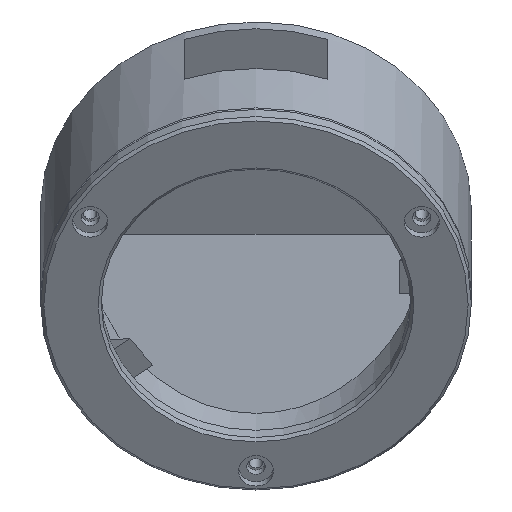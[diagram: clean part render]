
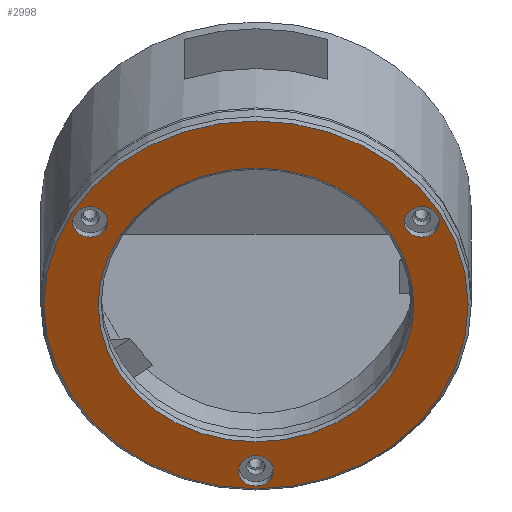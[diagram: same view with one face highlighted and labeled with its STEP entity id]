
A CAD part, top view. The second image highlights one B-rep face of the part: STEP entity #2998.
In plain terms, the highlighted planar face has unit normal (0, -0.5, 0.866).
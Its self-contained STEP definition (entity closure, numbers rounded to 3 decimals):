
#2776 = CONICAL_SURFACE('',#2777,27.,0.785);
#2777 = AXIS2_PLACEMENT_3D('',#2778,#2779,#2780);
#2778 = CARTESIAN_POINT('',(0.,-0.9,22.559));
#2779 = DIRECTION('',(-0.,0.5,-0.866));
#2780 = DIRECTION('',(1.,0.,0.));
#2820 = VERTEX_POINT('',#2821);
#2821 = CARTESIAN_POINT('',(26.6,-1.1,22.905));
#2844 = EDGE_CURVE('',#2820,#2820,#2845,.T.);
#2845 = SURFACE_CURVE('',#2846,(#2851,#2858),.PCURVE_S1.);
#2846 = CIRCLE('',#2847,26.6);
#2847 = AXIS2_PLACEMENT_3D('',#2848,#2849,#2850);
#2848 = CARTESIAN_POINT('',(0.,-1.1,22.905));
#2849 = DIRECTION('',(0.,-0.5,0.866));
#2850 = DIRECTION('',(1.,0.,0.));
#2851 = PCURVE('',#2776,#2852);
#2852 = DEFINITIONAL_REPRESENTATION('',(#2853),#2857);
#2853 = LINE('',#2854,#2855);
#2854 = CARTESIAN_POINT('',(-0.,-0.4));
#2855 = VECTOR('',#2856,1.);
#2856 = DIRECTION('',(-1.,-0.));
#2857 = ( GEOMETRIC_REPRESENTATION_CONTEXT(2) 
PARAMETRIC_REPRESENTATION_CONTEXT() REPRESENTATION_CONTEXT('2D SPACE',''
  ) );
#2858 = PCURVE('',#2859,#2864);
#2859 = PLANE('',#2860);
#2860 = AXIS2_PLACEMENT_3D('',#2861,#2862,#2863);
#2861 = CARTESIAN_POINT('',(0.,-1.1,22.905));
#2862 = DIRECTION('',(0.,-0.5,0.866));
#2863 = DIRECTION('',(1.,0.,0.));
#2864 = DEFINITIONAL_REPRESENTATION('',(#2865),#2869);
#2865 = CIRCLE('',#2866,26.6);
#2866 = AXIS2_PLACEMENT_2D('',#2867,#2868);
#2867 = CARTESIAN_POINT('',(0.,0.));
#2868 = DIRECTION('',(1.,0.));
#2869 = ( GEOMETRIC_REPRESENTATION_CONTEXT(2) 
PARAMETRIC_REPRESENTATION_CONTEXT() REPRESENTATION_CONTEXT('2D SPACE',''
  ) );
#2998 = ADVANCED_FACE('',(#2999,#3002,#3037,#3072,#3103),#2859,.T.);
#2999 = FACE_BOUND('',#3000,.T.);
#3000 = EDGE_LOOP('',(#3001));
#3001 = ORIENTED_EDGE('',*,*,#2844,.T.);
#3002 = FACE_BOUND('',#3003,.T.);
#3003 = EDGE_LOOP('',(#3004));
#3004 = ORIENTED_EDGE('',*,*,#3005,.T.);
#3005 = EDGE_CURVE('',#3006,#3006,#3008,.T.);
#3006 = VERTEX_POINT('',#3007);
#3007 = CARTESIAN_POINT('',(2.2,-21.885,10.905));
#3008 = SURFACE_CURVE('',#3009,(#3014,#3025),.PCURVE_S1.);
#3009 = CIRCLE('',#3010,2.2);
#3010 = AXIS2_PLACEMENT_3D('',#3011,#3012,#3013);
#3011 = CARTESIAN_POINT('',(0.,-21.885,
    10.905));
#3012 = DIRECTION('',(0.,0.5,-0.866));
#3013 = DIRECTION('',(1.,0.,0.));
#3014 = PCURVE('',#2859,#3015);
#3015 = DEFINITIONAL_REPRESENTATION('',(#3016),#3024);
#3016 = ( BOUNDED_CURVE() B_SPLINE_CURVE(2,(#3017,#3018,#3019,#3020,
#3021,#3022,#3023),.UNSPECIFIED.,.T.,.F.) B_SPLINE_CURVE_WITH_KNOTS((1,2
    ,2,2,2,1),(-2.094,0.,2.094,4.189,
6.283,8.378),.UNSPECIFIED.) CURVE() 
GEOMETRIC_REPRESENTATION_ITEM() RATIONAL_B_SPLINE_CURVE((1.,0.5,1.,0.5,
1.,0.5,1.)) REPRESENTATION_ITEM('') );
#3017 = CARTESIAN_POINT('',(2.2,-24.));
#3018 = CARTESIAN_POINT('',(2.2,-27.811));
#3019 = CARTESIAN_POINT('',(-1.1,-25.905));
#3020 = CARTESIAN_POINT('',(-4.4,-24.));
#3021 = CARTESIAN_POINT('',(-1.1,-22.095));
#3022 = CARTESIAN_POINT('',(2.2,-20.189));
#3023 = CARTESIAN_POINT('',(2.2,-24.));
#3024 = ( GEOMETRIC_REPRESENTATION_CONTEXT(2) 
PARAMETRIC_REPRESENTATION_CONTEXT() REPRESENTATION_CONTEXT('2D SPACE',''
  ) );
#3025 = PCURVE('',#3026,#3031);
#3026 = CYLINDRICAL_SURFACE('',#3027,2.2);
#3027 = AXIS2_PLACEMENT_3D('',#3028,#3029,#3030);
#3028 = CARTESIAN_POINT('',(0.,-21.335,
    9.953));
#3029 = DIRECTION('',(-0.,0.5,-0.866));
#3030 = DIRECTION('',(1.,0.,0.));
#3031 = DEFINITIONAL_REPRESENTATION('',(#3032),#3036);
#3032 = LINE('',#3033,#3034);
#3033 = CARTESIAN_POINT('',(-6.283,-1.1));
#3034 = VECTOR('',#3035,1.);
#3035 = DIRECTION('',(1.,-0.));
#3036 = ( GEOMETRIC_REPRESENTATION_CONTEXT(2) 
PARAMETRIC_REPRESENTATION_CONTEXT() REPRESENTATION_CONTEXT('2D SPACE',''
  ) );
#3037 = FACE_BOUND('',#3038,.T.);
#3038 = EDGE_LOOP('',(#3039));
#3039 = ORIENTED_EDGE('',*,*,#3040,.T.);
#3040 = EDGE_CURVE('',#3041,#3041,#3043,.T.);
#3041 = VERTEX_POINT('',#3042);
#3042 = CARTESIAN_POINT('',(-18.585,9.292,
    28.905));
#3043 = SURFACE_CURVE('',#3044,(#3049,#3060),.PCURVE_S1.);
#3044 = CIRCLE('',#3045,2.2);
#3045 = AXIS2_PLACEMENT_3D('',#3046,#3047,#3048);
#3046 = CARTESIAN_POINT('',(-20.785,9.292,
    28.905));
#3047 = DIRECTION('',(0.,0.5,-0.866));
#3048 = DIRECTION('',(1.,0.,0.));
#3049 = PCURVE('',#2859,#3050);
#3050 = DEFINITIONAL_REPRESENTATION('',(#3051),#3059);
#3051 = ( BOUNDED_CURVE() B_SPLINE_CURVE(2,(#3052,#3053,#3054,#3055,
#3056,#3057,#3058),.UNSPECIFIED.,.T.,.F.) B_SPLINE_CURVE_WITH_KNOTS((1,2
    ,2,2,2,1),(-2.094,0.,2.094,4.189,
6.283,8.378),.UNSPECIFIED.) CURVE() 
GEOMETRIC_REPRESENTATION_ITEM() RATIONAL_B_SPLINE_CURVE((1.,0.5,1.,0.5,
1.,0.5,1.)) REPRESENTATION_ITEM('') );
#3052 = CARTESIAN_POINT('',(-18.585,12.));
#3053 = CARTESIAN_POINT('',(-18.585,8.189));
#3054 = CARTESIAN_POINT('',(-21.885,10.095));
#3055 = CARTESIAN_POINT('',(-25.185,12.));
#3056 = CARTESIAN_POINT('',(-21.885,13.905));
#3057 = CARTESIAN_POINT('',(-18.585,15.811));
#3058 = CARTESIAN_POINT('',(-18.585,12.));
#3059 = ( GEOMETRIC_REPRESENTATION_CONTEXT(2) 
PARAMETRIC_REPRESENTATION_CONTEXT() REPRESENTATION_CONTEXT('2D SPACE',''
  ) );
#3060 = PCURVE('',#3061,#3066);
#3061 = CYLINDRICAL_SURFACE('',#3062,2.2);
#3062 = AXIS2_PLACEMENT_3D('',#3063,#3064,#3065);
#3063 = CARTESIAN_POINT('',(-20.785,9.842,
    27.953));
#3064 = DIRECTION('',(-0.,0.5,-0.866));
#3065 = DIRECTION('',(1.,0.,0.));
#3066 = DEFINITIONAL_REPRESENTATION('',(#3067),#3071);
#3067 = LINE('',#3068,#3069);
#3068 = CARTESIAN_POINT('',(-6.283,-1.1));
#3069 = VECTOR('',#3070,1.);
#3070 = DIRECTION('',(1.,-0.));
#3071 = ( GEOMETRIC_REPRESENTATION_CONTEXT(2) 
PARAMETRIC_REPRESENTATION_CONTEXT() REPRESENTATION_CONTEXT('2D SPACE',''
  ) );
#3072 = FACE_BOUND('',#3073,.T.);
#3073 = EDGE_LOOP('',(#3074));
#3074 = ORIENTED_EDGE('',*,*,#3075,.F.);
#3075 = EDGE_CURVE('',#3076,#3076,#3078,.T.);
#3076 = VERTEX_POINT('',#3077);
#3077 = CARTESIAN_POINT('',(19.8,-1.1,22.905));
#3078 = SURFACE_CURVE('',#3079,(#3084,#3091),.PCURVE_S1.);
#3079 = CIRCLE('',#3080,19.8);
#3080 = AXIS2_PLACEMENT_3D('',#3081,#3082,#3083);
#3081 = CARTESIAN_POINT('',(0.,-1.1,22.905));
#3082 = DIRECTION('',(0.,-0.5,0.866));
#3083 = DIRECTION('',(1.,0.,0.));
#3084 = PCURVE('',#2859,#3085);
#3085 = DEFINITIONAL_REPRESENTATION('',(#3086),#3090);
#3086 = CIRCLE('',#3087,19.8);
#3087 = AXIS2_PLACEMENT_2D('',#3088,#3089);
#3088 = CARTESIAN_POINT('',(0.,0.));
#3089 = DIRECTION('',(1.,0.));
#3090 = ( GEOMETRIC_REPRESENTATION_CONTEXT(2) 
PARAMETRIC_REPRESENTATION_CONTEXT() REPRESENTATION_CONTEXT('2D SPACE',''
  ) );
#3091 = PCURVE('',#3092,#3097);
#3092 = CONICAL_SURFACE('',#3093,19.4,0.785);
#3093 = AXIS2_PLACEMENT_3D('',#3094,#3095,#3096);
#3094 = CARTESIAN_POINT('',(0.,-0.9,22.559));
#3095 = DIRECTION('',(0.,-0.5,0.866));
#3096 = DIRECTION('',(1.,0.,0.));
#3097 = DEFINITIONAL_REPRESENTATION('',(#3098),#3102);
#3098 = LINE('',#3099,#3100);
#3099 = CARTESIAN_POINT('',(0.,0.4));
#3100 = VECTOR('',#3101,1.);
#3101 = DIRECTION('',(1.,0.));
#3102 = ( GEOMETRIC_REPRESENTATION_CONTEXT(2) 
PARAMETRIC_REPRESENTATION_CONTEXT() REPRESENTATION_CONTEXT('2D SPACE',''
  ) );
#3103 = FACE_BOUND('',#3104,.T.);
#3104 = EDGE_LOOP('',(#3105));
#3105 = ORIENTED_EDGE('',*,*,#3106,.T.);
#3106 = EDGE_CURVE('',#3107,#3107,#3109,.T.);
#3107 = VERTEX_POINT('',#3108);
#3108 = CARTESIAN_POINT('',(22.985,9.292,
    28.905));
#3109 = SURFACE_CURVE('',#3110,(#3115,#3126),.PCURVE_S1.);
#3110 = CIRCLE('',#3111,2.2);
#3111 = AXIS2_PLACEMENT_3D('',#3112,#3113,#3114);
#3112 = CARTESIAN_POINT('',(20.785,9.292,
    28.905));
#3113 = DIRECTION('',(0.,0.5,-0.866));
#3114 = DIRECTION('',(1.,0.,0.));
#3115 = PCURVE('',#2859,#3116);
#3116 = DEFINITIONAL_REPRESENTATION('',(#3117),#3125);
#3117 = ( BOUNDED_CURVE() B_SPLINE_CURVE(2,(#3118,#3119,#3120,#3121,
#3122,#3123,#3124),.UNSPECIFIED.,.T.,.F.) B_SPLINE_CURVE_WITH_KNOTS((1,2
    ,2,2,2,1),(-2.094,0.,2.094,4.189,
6.283,8.378),.UNSPECIFIED.) CURVE() 
GEOMETRIC_REPRESENTATION_ITEM() RATIONAL_B_SPLINE_CURVE((1.,0.5,1.,0.5,
1.,0.5,1.)) REPRESENTATION_ITEM('') );
#3118 = CARTESIAN_POINT('',(22.985,12.));
#3119 = CARTESIAN_POINT('',(22.985,8.189));
#3120 = CARTESIAN_POINT('',(19.685,10.095));
#3121 = CARTESIAN_POINT('',(16.385,12.));
#3122 = CARTESIAN_POINT('',(19.685,13.905));
#3123 = CARTESIAN_POINT('',(22.985,15.811));
#3124 = CARTESIAN_POINT('',(22.985,12.));
#3125 = ( GEOMETRIC_REPRESENTATION_CONTEXT(2) 
PARAMETRIC_REPRESENTATION_CONTEXT() REPRESENTATION_CONTEXT('2D SPACE',''
  ) );
#3126 = PCURVE('',#3127,#3132);
#3127 = CYLINDRICAL_SURFACE('',#3128,2.2);
#3128 = AXIS2_PLACEMENT_3D('',#3129,#3130,#3131);
#3129 = CARTESIAN_POINT('',(20.785,9.842,
    27.953));
#3130 = DIRECTION('',(-0.,0.5,-0.866));
#3131 = DIRECTION('',(1.,0.,0.));
#3132 = DEFINITIONAL_REPRESENTATION('',(#3133),#3137);
#3133 = LINE('',#3134,#3135);
#3134 = CARTESIAN_POINT('',(-6.283,-1.1));
#3135 = VECTOR('',#3136,1.);
#3136 = DIRECTION('',(1.,-0.));
#3137 = ( GEOMETRIC_REPRESENTATION_CONTEXT(2) 
PARAMETRIC_REPRESENTATION_CONTEXT() REPRESENTATION_CONTEXT('2D SPACE',''
  ) );
